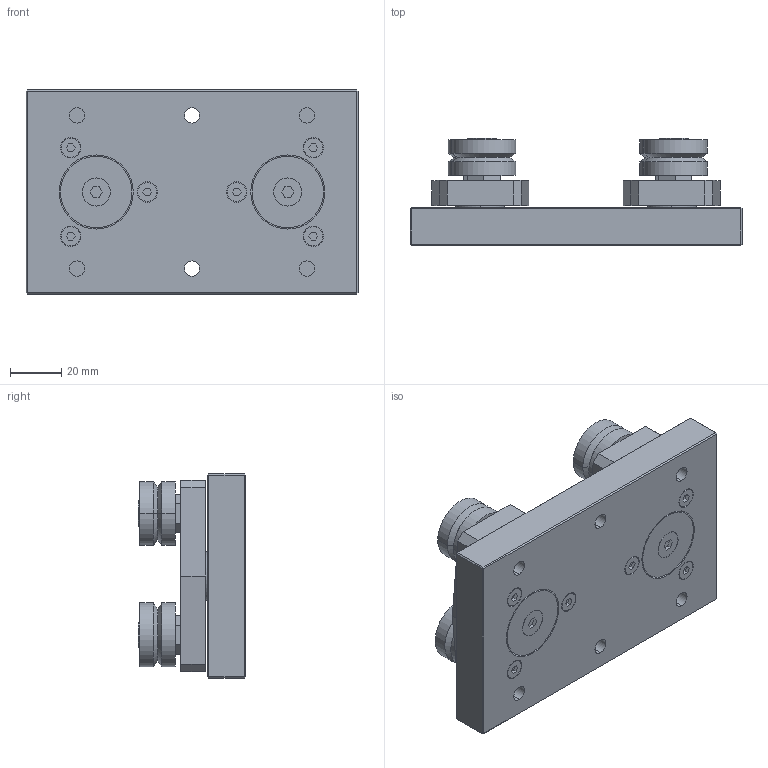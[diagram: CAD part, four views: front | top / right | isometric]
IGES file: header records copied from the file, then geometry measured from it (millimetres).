
Start section: 3D InterOp IGES (v. 2018 1.0.2), Spatial Corp. Copyright (c) 1999-2017.
Global section: file name: bcp25.igs; native system: Spatial Corp.; preprocessor: 3D InterOp ACIS/IGES; author: TraceParts; organization: TraceParts S.A.; date: 20200814.185000; units: millimetre
Bounding box: 130 x 42.15 x 80 mm (x, y, z)
Surface area: 55957 mm2 (no closed solid volume)
Topology: 0 solids, 0 shells, 312 faces, 1440 edges, 1440 vertices
Faces by surface type: extrusion 208, revolution 104
